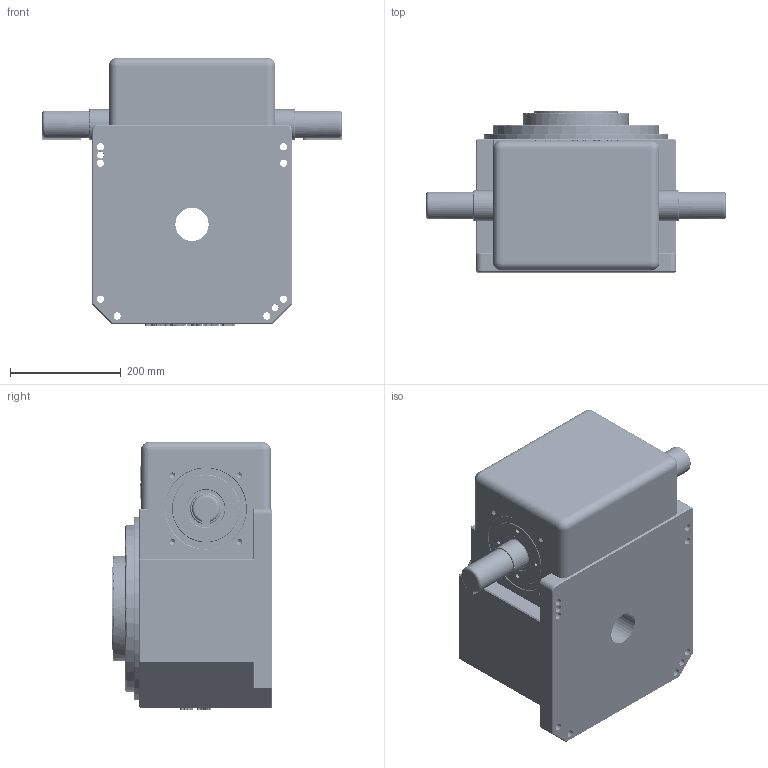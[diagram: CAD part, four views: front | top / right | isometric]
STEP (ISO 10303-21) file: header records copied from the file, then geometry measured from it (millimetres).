
FILE_DESCRIPTION (( 'STEP AP214' ), '1' );
FILE_NAME ('ER-RU180DT英锐凸轮分割器3D固定盘壳体和法兰面加销孔标准图纸(电话15062628977)AA.STEP', '2022-08-24T10:27:54', ( '微软用户' ), ( '微软中国' ), 'SwSTEP 2.0', 'SolidWorks 2017', '' );
FILE_SCHEMA (( 'AUTOMOTIVE_DESIGN' ));
Length unit declared in the file: millimetre
Products named in the file (1): ER-RU180DT英锐凸轮分割器3D固定盘壳体和法兰面加销孔标准图纸(电话15062628977)AA
Bounding box: 540 x 290 x 483 mm (x, y, z)
Volume: 38989030.3 mm3; surface area: 887490 mm2
Topology: 1 solids, 1 shells, 2339 faces, 6405 edges, 4159 vertices
Faces by surface type: cylinder 861, plane 816, bspline 447, cone 198, torus 13, sphere 4
Entity records: 186155 total; most frequent: CARTESIAN_POINT 134137, ORIENTED_EDGE 12666, DIRECTION 7915, EDGE_CURVE 6333, VERTEX_POINT 4159, LINE 3315, VECTOR 3315, EDGE_LOOP 2524
